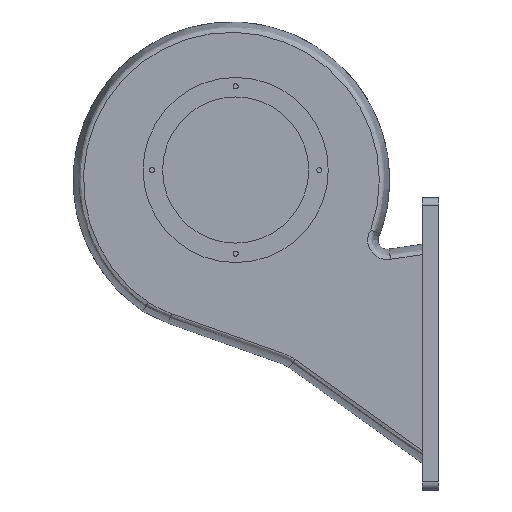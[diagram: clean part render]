
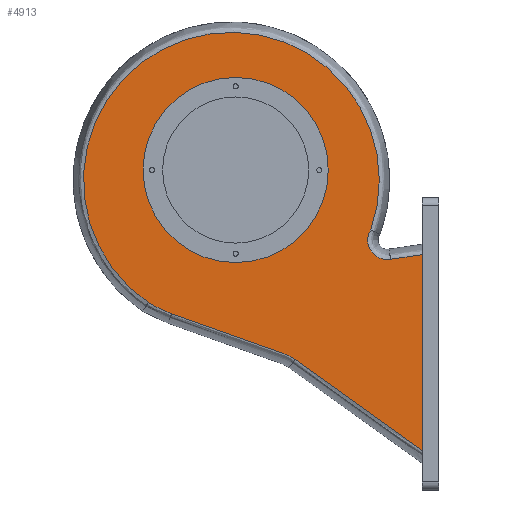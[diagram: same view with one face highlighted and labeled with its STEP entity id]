
A CAD part, left-side view. The second image highlights one B-rep face of the part: STEP entity #4913.
In plain terms, the highlighted planar face has unit normal (-1, 0, 0).
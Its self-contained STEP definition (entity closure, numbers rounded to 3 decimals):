
#52=CIRCLE('',#5193,11.969);
#53=CIRCLE('',#5194,91.058);
#54=CIRCLE('',#5195,107.122);
#55=CIRCLE('',#5196,26.343);
#56=CIRCLE('',#5197,57.);
#270=ORIENTED_EDGE('',*,*,#1746,.T.);
#271=ORIENTED_EDGE('',*,*,#1747,.T.);
#272=ORIENTED_EDGE('',*,*,#1729,.T.);
#273=ORIENTED_EDGE('',*,*,#1742,.T.);
#274=ORIENTED_EDGE('',*,*,#1748,.T.);
#275=ORIENTED_EDGE('',*,*,#1749,.T.);
#276=ORIENTED_EDGE('',*,*,#1750,.T.);
#277=ORIENTED_EDGE('',*,*,#1751,.T.);
#278=ORIENTED_EDGE('',*,*,#1752,.T.);
#279=ORIENTED_EDGE('',*,*,#1753,.T.);
#280=ORIENTED_EDGE('',*,*,#1754,.F.);
#1729=EDGE_CURVE('',#2469,#2467,#2970,.T.);
#1742=EDGE_CURVE('',#2467,#2479,#2978,.T.);
#1746=EDGE_CURVE('',#2481,#2482,#2979,.T.);
#1747=EDGE_CURVE('',#2482,#2469,#2980,.T.);
#1748=EDGE_CURVE('',#2479,#2483,#52,.T.);
#1749=EDGE_CURVE('',#2483,#2484,#53,.T.);
#1750=EDGE_CURVE('',#2484,#2485,#54,.T.);
#1751=EDGE_CURVE('',#2485,#2486,#2981,.T.);
#1752=EDGE_CURVE('',#2486,#2487,#2982,.T.);
#1753=EDGE_CURVE('',#2487,#2481,#55,.T.);
#1754=EDGE_CURVE('',#2488,#2488,#56,.T.);
#2467=VERTEX_POINT('',#6990);
#2469=VERTEX_POINT('',#6993);
#2479=VERTEX_POINT('',#7233);
#2481=VERTEX_POINT('',#7281);
#2482=VERTEX_POINT('',#7282);
#2483=VERTEX_POINT('',#7285);
#2484=VERTEX_POINT('',#7287);
#2485=VERTEX_POINT('',#7289);
#2486=VERTEX_POINT('',#7291);
#2487=VERTEX_POINT('',#7293);
#2488=VERTEX_POINT('',#7296);
#2970=LINE('',#6992,#3523);
#2978=LINE('',#7232,#3531);
#2979=LINE('',#7280,#3532);
#2980=LINE('',#7283,#3533);
#2981=LINE('',#7290,#3534);
#2982=LINE('',#7292,#3535);
#3523=VECTOR('',#5609,1000.);
#3531=VECTOR('',#5619,1000.);
#3532=VECTOR('',#5622,1000.);
#3533=VECTOR('',#5623,1000.);
#3534=VECTOR('',#5630,1000.);
#3535=VECTOR('',#5631,1000.);
#4079=EDGE_LOOP('',(#270,#271,#272,#273,#274,#275,#276,#277,#278,#279));
#4080=EDGE_LOOP('',(#280));
#4384=FACE_BOUND('',#4079,.T.);
#4385=FACE_BOUND('',#4080,.T.);
#4687=PLANE('',#5192);
#4913=ADVANCED_FACE('',(#4384,#4385),#4687,.F.);
#5192=AXIS2_PLACEMENT_3D('',#7279,#5620,#5621);
#5193=AXIS2_PLACEMENT_3D('',#7284,#5624,#5625);
#5194=AXIS2_PLACEMENT_3D('',#7286,#5626,#5627);
#5195=AXIS2_PLACEMENT_3D('',#7288,#5628,#5629);
#5196=AXIS2_PLACEMENT_3D('',#7294,#5632,#5633);
#5197=AXIS2_PLACEMENT_3D('',#7295,#5634,#5635);
#5609=DIRECTION('',(0.,0.,1.));
#5619=DIRECTION('',(0.,0.989,-0.145));
#5620=DIRECTION('',(1.,0.,0.));
#5621=DIRECTION('',(0.,0.,-1.));
#5622=DIRECTION('',(0.,-0.803,-0.596));
#5623=DIRECTION('',(0.,-0.813,-0.582));
#5624=DIRECTION('',(1.,0.,0.));
#5625=DIRECTION('',(0.,-0.205,-0.979));
#5626=DIRECTION('',(-1.,0.,0.));
#5627=DIRECTION('',(0.,-0.939,-0.345));
#5628=DIRECTION('',(-1.,0.,0.));
#5629=DIRECTION('',(0.,0.5,-0.866));
#5630=DIRECTION('',(0.,-0.932,-0.362));
#5631=DIRECTION('',(0.,-0.942,-0.335));
#5632=DIRECTION('',(1.,0.,0.));
#5633=DIRECTION('',(0.,-0.329,0.944));
#5634=DIRECTION('',(-1.,0.,0.));
#5635=DIRECTION('',(0.,0.,1.));
#6990=CARTESIAN_POINT('',(-33.5,-115.001,-52.087));
#6992=CARTESIAN_POINT('',(-33.5,-114.997,-180.655));
#6993=CARTESIAN_POINT('',(-33.5,-114.997,-172.853));
#7232=CARTESIAN_POINT('',(-33.5,-116.093,-51.926));
#7233=CARTESIAN_POINT('',(-33.5,-95.403,-54.966));
#7279=CARTESIAN_POINT('',(-33.5,-93.264,-43.19));
#7280=CARTESIAN_POINT('',(-33.5,-36.479,-116.61));
#7281=CARTESIAN_POINT('',(-33.5,-36.479,-116.61));
#7282=CARTESIAN_POINT('',(-33.5,-36.574,-116.681));
#7283=CARTESIAN_POINT('',(-33.5,-36.2,-116.412));
#7284=CARTESIAN_POINT('',(-33.5,-93.264,-43.19));
#7285=CARTESIAN_POINT('',(-33.5,-83.18,-36.743));
#7286=CARTESIAN_POINT('',(-33.5,2.627,-6.268));
#7287=CARTESIAN_POINT('',(-33.5,53.835,-81.563));
#7288=CARTESIAN_POINT('',(-33.5,0.573,11.379));
#7289=CARTESIAN_POINT('',(-33.5,39.501,-88.419));
#7290=CARTESIAN_POINT('',(-33.5,39.501,-88.419));
#7291=CARTESIAN_POINT('',(-33.5,39.426,-88.448));
#7292=CARTESIAN_POINT('',(-33.5,39.917,-88.274));
#7293=CARTESIAN_POINT('',(-33.5,-29.588,-112.992));
#7294=CARTESIAN_POINT('',(-33.5,-20.922,-137.869));
#7295=CARTESIAN_POINT('',(-33.5,0.,0.));
#7296=CARTESIAN_POINT('',(-33.5,0.,57.));
